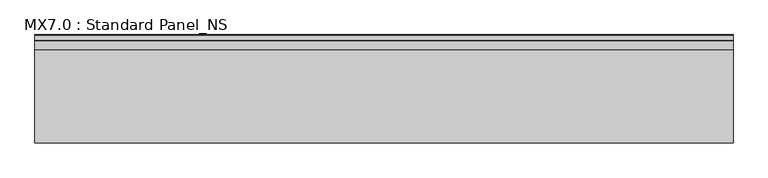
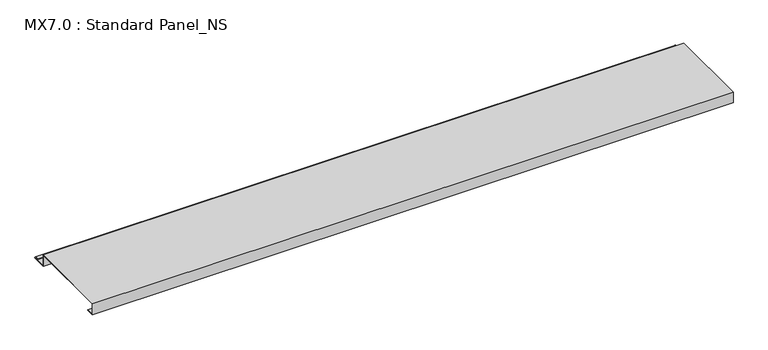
"""IFC4 building model written with IfcOpenShell, lengths in millimetres: proxy geometry, MX7.0 : Standard Panel_NS."""

from ifc_helpers import new_model, si_unit, point, frame, frame_2d, origin, place, context, project, spatial, polyline, circle_curve, trimmed, segment, composite_curve, outline, extrude, source, transform, mapped, element, save


def mx7_0_standard_panel_ns_a6cb7541(model_context):
    return source(origin(), model_context, "Body", "SweptSolid", [
        extrude(outline(composite_curve([segment(polyline([(0.0, 0.0), (0.0, 38.0), (280.0, 38.0), (280.0, 0.0), (324.8317866, 0.0)]), True, "CONTINUOUS"), segment(trimmed(circle_curve(frame_2d((324.3094696, 0.9153551)), 1.0538928), [point((324.8317866, 0.0))], [point((324.8448691, 1.8231201))], True, "CARTESIAN"), True, "CONTINUOUS"), segment(polyline([(324.8448691, 1.8231201), (308.5989911, 4.94103), (308.7874714, 5.923107), (325.1748462, 2.778041)]), True, "CONTINUOUS"), segment(trimmed(circle_curve(frame_2d((324.3094696, 0.9153551)), 2.0538928), [point((325.1748462, 2.778041))], [point((325.0510156, -1.0))], False, "CARTESIAN"), True, "CONTINUOUS"), segment(polyline([(325.0510156, -1.0), (279.0, -1.0), (279.0, 37.0), (1.0, 37.0), (1.0, 1.0), (25.0, 1.0), (25.0, 0.0), (0.0, 0.0)]), True, "CONTINUOUS")], self_intersect=False)), frame((0.0, 0.0, 0.0), z_axis=(1.0, 0.0, 0.0), x_axis=(0.0, 1.0, 0.0)), (0.0, 0.0, 1.0), 2100.0),
    ])


if __name__ == "__main__":
    model = new_model("IFC4")
    model_context = context("Model", 3, world=origin())
    ifc_project = project(units=[si_unit("LENGTHUNIT", "METRE", prefix="MILLI")], contexts=[model_context])
    site = spatial("IfcSite", under=ifc_project)
    building = spatial("IfcBuilding", under=site)
    placement = place(None, origin())
    mx7_0_standard_panel_ns_shape = mx7_0_standard_panel_ns_a6cb7541(model_context)
    element("IfcBuildingElementProxy", 1, Name="MX7.0 : Standard Panel_NS", ObjectType="MX7.0 : Standard Panel_NS", at=placement, inside=building, context=model_context, shape_type="MappedRepresentation", body=[
        mapped(mx7_0_standard_panel_ns_shape, transform((0.0, 0.0, 0.0), x_axis=(1.0, 0.0, 0.0), y_axis=(0.0, 1.0, 0.0), z_axis=(0.0, 0.0, 1.0))),
    ])
    save(model, "model.ifc")
